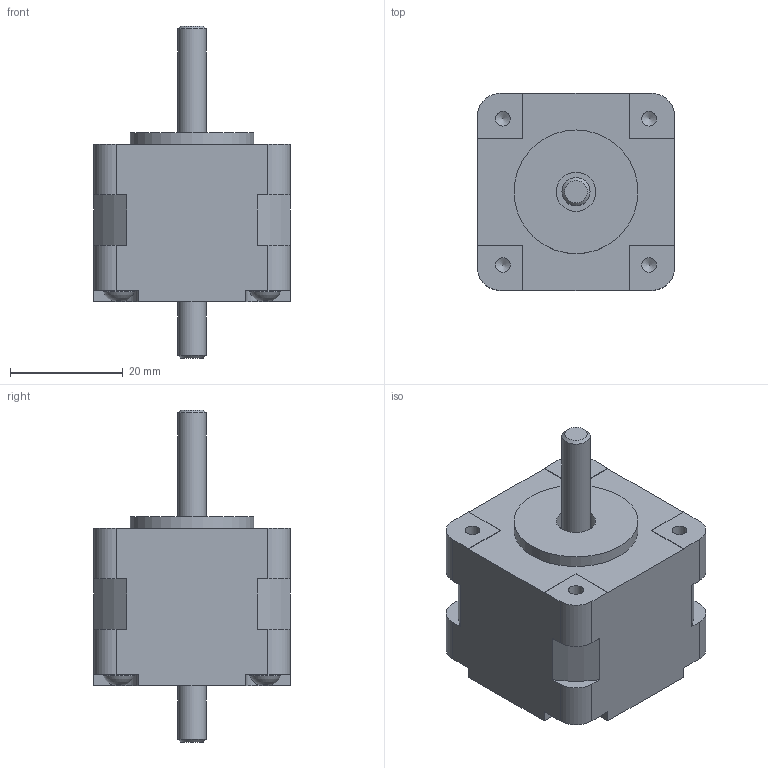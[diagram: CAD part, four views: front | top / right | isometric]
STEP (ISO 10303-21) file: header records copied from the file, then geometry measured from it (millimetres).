
FILE_DESCRIPTION(('STEP AP214'), '1');
FILE_NAME('Øàãîâûé äâèãàòåëü - PL35HD28-D5', '', ('UNSPECIFIED'), ('UNSPECIFIED'), 'ASCON STEP Converter 1.3', 'ASCON Math Kernel', '');
FILE_SCHEMA(('AUTOMOTIVE_DESIGN { 1 0 10303 214 3 1 1}'));
Length unit declared in the file: millimetre
Products named in the file (5): Øàãîâûé äâèãàòåëü
Assembly tree (4 placements, depth 2):
  Øàãîâûé äâèãàòåëü
    (unnamed)
    (unnamed)
    (unnamed)
    (unnamed)
Bounding box: 35 x 35 x 59 mm (x, y, z)
Volume: 33912.2 mm3; surface area: 7472.8 mm2
Topology: 1 solids, 5 shells, 187 faces, 499 edges, 332 vertices
Faces by surface type: plane 104, cylinder 33, bspline 32, cone 14, sphere 4
Full cylindrical faces by diameter (mm): 2.621 x8, 5 x2, 5.5 x4, 7 x2, 22 x1
Entity records: 7790 total; most frequent: CARTESIAN_POINT 1548, ORIENTED_EDGE 912, DIRECTION 872, EDGE_CURVE 456, VERTEX_POINT 320, LINE 296, VECTOR 296, AXIS2_PLACEMENT_3D 288
